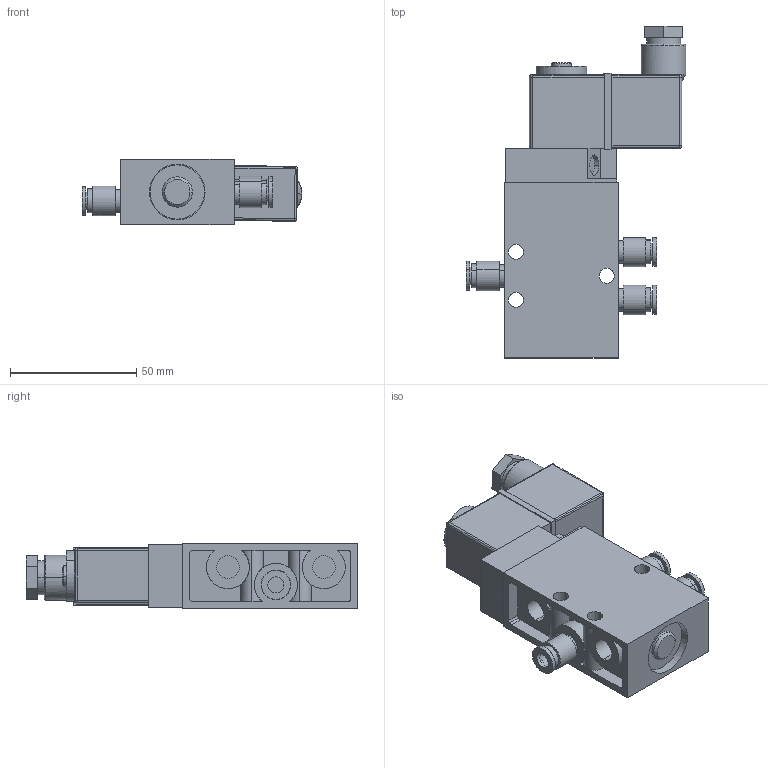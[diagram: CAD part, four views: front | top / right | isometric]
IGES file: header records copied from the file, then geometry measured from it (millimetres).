
Global section: file name: No Iges File Name specified; native system: AutoDesk Inventor R5.0; preprocessor: AutoDesk Inventor Iges Exporter R5.0; author: No Author specified; organization: No Organization specified; date: 20030119.154355; units: inch
Bounding box: 87.12 x 131.5 x 26 mm (x, y, z)
Volume: 127388.9 mm3; surface area: 34422.4 mm2
Topology: 6 solids, 6 shells, 263 faces, 620 edges, 396 vertices
Faces by surface type: plane 105, cylinder 88, revolution 40, bspline 16, cone 6, sphere 6, torus 2
